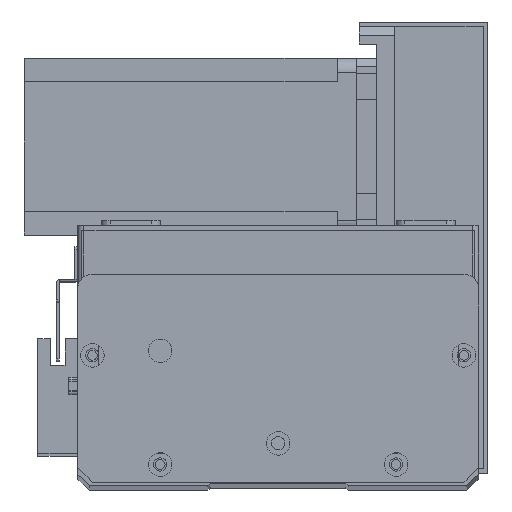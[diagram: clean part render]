
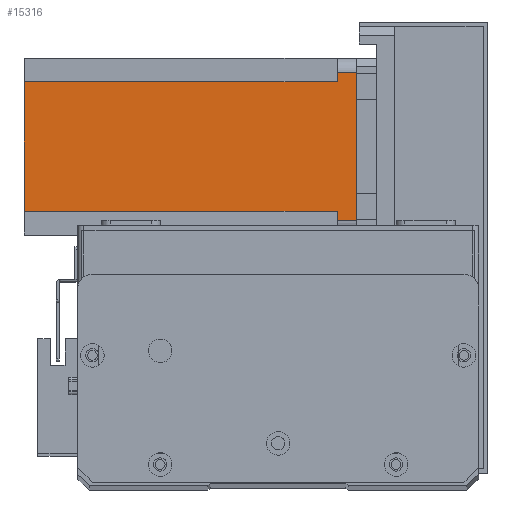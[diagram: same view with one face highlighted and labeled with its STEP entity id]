
A CAD part, top view. The second image highlights one B-rep face of the part: STEP entity #15316.
In plain terms, the highlighted planar face has unit normal (0, 0, 1) as drawn and (0, 1, 0) by its records, which use the part's own axes.
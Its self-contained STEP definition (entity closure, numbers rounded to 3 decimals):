
#980 = VECTOR ( 'NONE', #16180, 1000. ) ;
#1051 = AXIS2_PLACEMENT_3D ( 'NONE', #11584, #10797, #10775 ) ;
#2495 = LINE ( 'NONE', #12612, #14027 ) ;
#2725 = LINE ( 'NONE', #18858, #25916 ) ;
#3072 = VECTOR ( 'NONE', #28214, 1000. ) ;
#3710 = CARTESIAN_POINT ( 'NONE',  ( 52., 60., -6.5 ) ) ;
#3958 = FACE_OUTER_BOUND ( 'NONE', #4457, .T. ) ;
#4457 = EDGE_LOOP ( 'NONE', ( #18650, #27150, #27153, #10992, #12991, #10145, #6428, #12893 ) ) ;
#5508 = VECTOR ( 'NONE', #8402, 1000. ) ;
#5651 = CARTESIAN_POINT ( 'NONE',  ( 0., 60., 0. ) ) ;
#6076 = CARTESIAN_POINT ( 'NONE',  ( 5., 60., -6.5 ) ) ;
#6428 = ORIENTED_EDGE ( 'NONE', *, *, #22897, .T. ) ;
#6802 = VERTEX_POINT ( 'NONE', #8634 ) ;
#8303 = DIRECTION ( 'NONE',  ( 0., 0., -1. ) ) ;
#8402 = DIRECTION ( 'NONE',  ( -1., 0., 0. ) ) ;
#8634 = CARTESIAN_POINT ( 'NONE',  ( 5., 60., 0. ) ) ;
#8764 = LINE ( 'NONE', #5651, #25704 ) ;
#10145 = ORIENTED_EDGE ( 'NONE', *, *, #20641, .F. ) ;
#10742 = LINE ( 'NONE', #25999, #15897 ) ;
#10775 = DIRECTION ( 'NONE',  ( 0., 0., 1. ) ) ;
#10797 = DIRECTION ( 'NONE',  ( 0., 1., 0. ) ) ;
#10992 = ORIENTED_EDGE ( 'NONE', *, *, #17587, .F. ) ;
#11335 = CARTESIAN_POINT ( 'NONE',  ( 52., 60., -6.5 ) ) ;
#11345 = PLANE ( 'NONE',  #1051 ) ;
#11584 = CARTESIAN_POINT ( 'NONE',  ( 0., 60., -112.5 ) ) ;
#12478 = CARTESIAN_POINT ( 'NONE',  ( 8., 60., -112.5 ) ) ;
#12612 = CARTESIAN_POINT ( 'NONE',  ( 5., 60., -112.5 ) ) ;
#12893 = ORIENTED_EDGE ( 'NONE', *, *, #24036, .T. ) ;
#12991 = ORIENTED_EDGE ( 'NONE', *, *, #19992, .T. ) ;
#13462 = VERTEX_POINT ( 'NONE', #26730 ) ;
#14001 = CARTESIAN_POINT ( 'NONE',  ( 55., 60., -112.5 ) ) ;
#14027 = VECTOR ( 'NONE', #14835, 1000. ) ;
#14835 = DIRECTION ( 'NONE',  ( 0., 0., 1. ) ) ;
#15316 = ADVANCED_FACE ( 'NONE', ( #3958 ), #11345, .T. ) ;
#15897 = VECTOR ( 'NONE', #8303, 1000. ) ;
#15956 = LINE ( 'NONE', #3710, #3072 ) ;
#16180 = DIRECTION ( 'NONE',  ( 0., 0., -1. ) ) ;
#16228 = EDGE_CURVE ( 'NONE', #20000, #13462, #19128, .T. ) ;
#16610 = DIRECTION ( 'NONE',  ( 0., 0., 1. ) ) ;
#16797 = VERTEX_POINT ( 'NONE', #28936 ) ;
#17048 = EDGE_CURVE ( 'NONE', #22457, #13462, #15956, .T. ) ;
#17587 = EDGE_CURVE ( 'NONE', #16797, #22457, #2725, .T. ) ;
#18650 = ORIENTED_EDGE ( 'NONE', *, *, #24030, .F. ) ;
#18858 = CARTESIAN_POINT ( 'NONE',  ( 52., 60., -112.5 ) ) ;
#19128 = LINE ( 'NONE', #14001, #980 ) ;
#19522 = CARTESIAN_POINT ( 'NONE',  ( 8., 60., -6.5 ) ) ;
#19992 = EDGE_CURVE ( 'NONE', #16797, #22815, #23129, .T. ) ;
#20000 = VERTEX_POINT ( 'NONE', #25922 ) ;
#20641 = EDGE_CURVE ( 'NONE', #26072, #22815, #10742, .T. ) ;
#21522 = CARTESIAN_POINT ( 'NONE',  ( 0., 60., -112.5 ) ) ;
#22457 = VERTEX_POINT ( 'NONE', #11335 ) ;
#22815 = VERTEX_POINT ( 'NONE', #12478 ) ;
#22897 = EDGE_CURVE ( 'NONE', #26072, #24146, #24080, .T. ) ;
#23129 = LINE ( 'NONE', #21522, #28883 ) ;
#23556 = DIRECTION ( 'NONE',  ( -1., 0., 0. ) ) ;
#24030 = EDGE_CURVE ( 'NONE', #20000, #6802, #8764, .T. ) ;
#24036 = EDGE_CURVE ( 'NONE', #24146, #6802, #2495, .T. ) ;
#24080 = LINE ( 'NONE', #19522, #5508 ) ;
#24146 = VERTEX_POINT ( 'NONE', #6076 ) ;
#25704 = VECTOR ( 'NONE', #23556, 1000. ) ;
#25916 = VECTOR ( 'NONE', #16610, 1000. ) ;
#25922 = CARTESIAN_POINT ( 'NONE',  ( 55., 60., 0. ) ) ;
#25999 = CARTESIAN_POINT ( 'NONE',  ( 8., 60., -112.5 ) ) ;
#26072 = VERTEX_POINT ( 'NONE', #27951 ) ;
#26730 = CARTESIAN_POINT ( 'NONE',  ( 55., 60., -6.5 ) ) ;
#27150 = ORIENTED_EDGE ( 'NONE', *, *, #16228, .T. ) ;
#27153 = ORIENTED_EDGE ( 'NONE', *, *, #17048, .F. ) ;
#27951 = CARTESIAN_POINT ( 'NONE',  ( 8., 60., -6.5 ) ) ;
#28001 = DIRECTION ( 'NONE',  ( -1., 0., 0. ) ) ;
#28214 = DIRECTION ( 'NONE',  ( 1., 0., 0. ) ) ;
#28883 = VECTOR ( 'NONE', #28001, 1000. ) ;
#28936 = CARTESIAN_POINT ( 'NONE',  ( 52., 60., -112.5 ) ) ;
